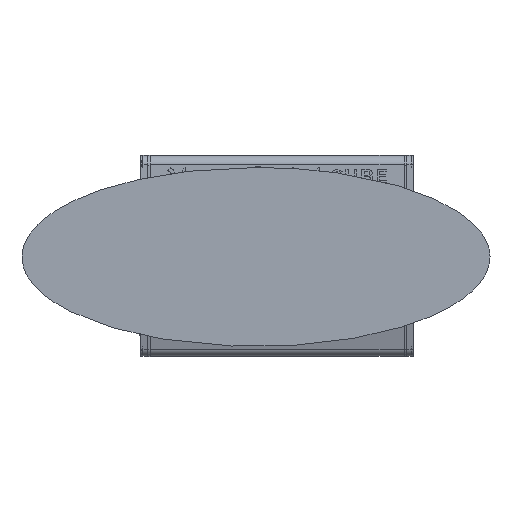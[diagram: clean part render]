
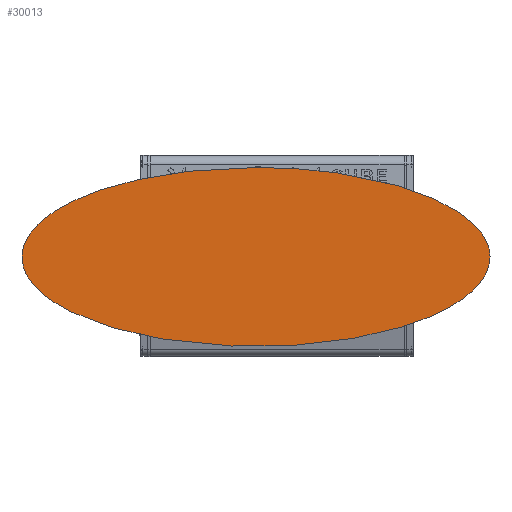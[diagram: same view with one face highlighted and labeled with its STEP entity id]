
A CAD part, top view. The second image highlights one B-rep face of the part: STEP entity #30013.
In plain terms, the highlighted planar face has unit normal (0, 0, 1).
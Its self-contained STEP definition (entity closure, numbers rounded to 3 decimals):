
#322=B_SPLINE_CURVE_WITH_KNOTS('',3,(#51072,#51073,#51074,#51075,#51076,
#51077,#51078,#51079,#51080,#51081,#51082,#51083,#51084,#51085,#51086,#51087,
#51088,#51089,#51090,#51091,#51092,#51093,#51094,#51095,#51096,#51097,#51098,
#51099,#51100,#51101,#51102,#51103,#51104,#51105,#51106,#51107,#51108,#51109,
#51110,#51111,#51112,#51113),.UNSPECIFIED.,.T.,.F.,(4,2,2,2,2,2,2,2,2,2,
2,2,2,2,2,2,2,2,2,2,4),(-30.433,-30.242,-29.785,
-28.945,-27.229,-23.657,-19.73,
-17.659,-16.566,-15.928,-15.416,
-14.903,-14.266,-13.174,-11.114,
-7.25,-3.588,-1.664,-0.726,
-0.219,0.),.UNSPECIFIED.);
#1418=FACE_OUTER_BOUND('',#3012,.T.);
#3012=EDGE_LOOP('',(#21084));
#12317=VERTEX_POINT('',#51070);
#15625=EDGE_CURVE('',#12317,#12317,#322,.T.);
#21084=ORIENTED_EDGE('',*,*,#15625,.F.);
#27849=PLANE('',#31829);
#30013=ADVANCED_FACE('',(#1418),#27849,.F.);
#31829=AXIS2_PLACEMENT_3D('',#51115,#36012,#36013);
#36012=DIRECTION('center_axis',(0.,0.,-1.));
#36013=DIRECTION('ref_axis',(-1.,0.,0.));
#51070=CARTESIAN_POINT('',(22.903,-30.5,126.9));
#51072=CARTESIAN_POINT('Ctrl Pts',(22.903,-30.5,126.9));
#51073=CARTESIAN_POINT('Ctrl Pts',(22.903,-31.204,126.9));
#51074=CARTESIAN_POINT('Ctrl Pts',(22.83,-31.902,126.9));
#51075=CARTESIAN_POINT('Ctrl Pts',(22.348,-34.238,126.9));
#51076=CARTESIAN_POINT('Ctrl Pts',(21.63,-35.773,126.9));
#51077=CARTESIAN_POINT('Ctrl Pts',(18.966,-39.745,126.9));
#51078=CARTESIAN_POINT('Ctrl Pts',(16.581,-41.727,126.9));
#51079=CARTESIAN_POINT('Ctrl Pts',(11.117,-45.676,126.9));
#51080=CARTESIAN_POINT('Ctrl Pts',(6.286,-48.083,126.9));
#51081=CARTESIAN_POINT('Ctrl Pts',(-11.38,-54.378,
126.9));
#51082=CARTESIAN_POINT('Ctrl Pts',(-26.298,-56.714,126.9));
#51083=CARTESIAN_POINT('Ctrl Pts',(-57.572,-57.732,
126.9));
#51084=CARTESIAN_POINT('Ctrl Pts',(-74.457,-56.049,
126.9));
#51085=CARTESIAN_POINT('Ctrl Pts',(-95.855,-50.054,
126.9));
#51086=CARTESIAN_POINT('Ctrl Pts',(-102.039,-47.477,
126.9));
#51087=CARTESIAN_POINT('Ctrl Pts',(-109.28,-42.969,
126.9));
#51088=CARTESIAN_POINT('Ctrl Pts',(-111.741,-41.081,
126.9));
#51089=CARTESIAN_POINT('Ctrl Pts',(-114.768,-37.546,
126.9));
#51090=CARTESIAN_POINT('Ctrl Pts',(-115.728,-36.088,
126.9));
#51091=CARTESIAN_POINT('Ctrl Pts',(-116.861,-33.213,
126.9));
#51092=CARTESIAN_POINT('Ctrl Pts',(-117.137,-31.876,
126.9));
#51093=CARTESIAN_POINT('Ctrl Pts',(-117.138,-29.124,
126.9));
#51094=CARTESIAN_POINT('Ctrl Pts',(-116.862,-27.788,
126.9));
#51095=CARTESIAN_POINT('Ctrl Pts',(-115.731,-24.916,
126.9));
#51096=CARTESIAN_POINT('Ctrl Pts',(-114.773,-23.46,
126.9));
#51097=CARTESIAN_POINT('Ctrl Pts',(-111.751,-19.929,
126.9));
#51098=CARTESIAN_POINT('Ctrl Pts',(-109.292,-18.04,
126.9));
#51099=CARTESIAN_POINT('Ctrl Pts',(-102.079,-13.544,126.9));
#51100=CARTESIAN_POINT('Ctrl Pts',(-95.9,-10.961,126.9));
#51101=CARTESIAN_POINT('Ctrl Pts',(-74.63,-4.996,
126.9));
#51102=CARTESIAN_POINT('Ctrl Pts',(-57.825,-3.266,
126.9));
#51103=CARTESIAN_POINT('Ctrl Pts',(-25.408,-4.313,
126.9));
#51104=CARTESIAN_POINT('Ctrl Pts',(-10.993,-6.829,
126.9));
#51105=CARTESIAN_POINT('Ctrl Pts',(5.955,-12.764,126.9));
#51106=CARTESIAN_POINT('Ctrl Pts',(10.882,-15.187,126.9));
#51107=CARTESIAN_POINT('Ctrl Pts',(16.448,-19.163,126.9));
#51108=CARTESIAN_POINT('Ctrl Pts',(18.871,-21.153,126.9));
#51109=CARTESIAN_POINT('Ctrl Pts',(21.584,-25.14,126.9));
#51110=CARTESIAN_POINT('Ctrl Pts',(22.318,-26.679,126.9));
#51111=CARTESIAN_POINT('Ctrl Pts',(22.824,-29.048,126.9));
#51112=CARTESIAN_POINT('Ctrl Pts',(22.903,-29.77,126.9));
#51113=CARTESIAN_POINT('Ctrl Pts',(22.903,-30.5,126.9));
#51115=CARTESIAN_POINT('Origin',(-47.118,-30.5,126.9));
